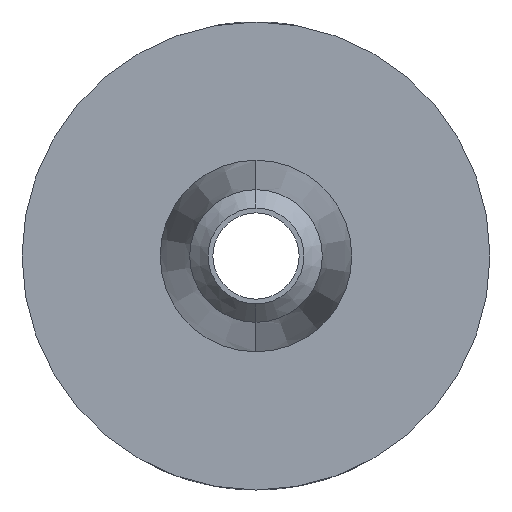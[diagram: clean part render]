
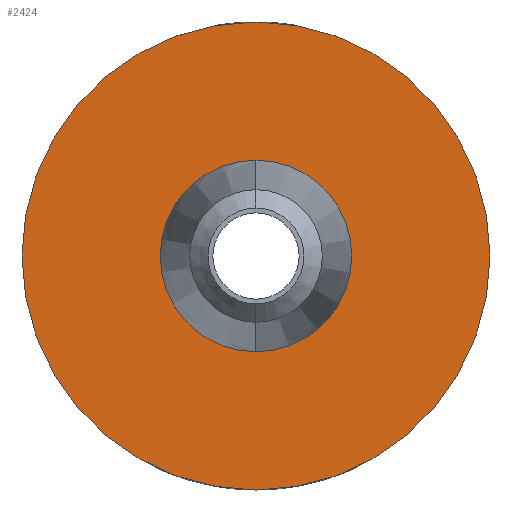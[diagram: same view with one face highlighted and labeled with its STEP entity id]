
A CAD part, left-side view. The second image highlights one B-rep face of the part: STEP entity #2424.
In plain terms, the highlighted planar face has unit normal (1, 0, 0).
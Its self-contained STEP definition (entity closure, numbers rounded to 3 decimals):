
#52=PLANE('',#2747);
#69=FACE_BOUND('',#286,.T.);
#125=CIRCLE('',#2748,3.175);
#126=CIRCLE('',#2749,1.3);
#193=FACE_OUTER_BOUND('',#285,.T.);
#285=EDGE_LOOP('',(#1981));
#286=EDGE_LOOP('',(#1982));
#1079=VERTEX_POINT('',#4719);
#1080=VERTEX_POINT('',#4721);
#1530=EDGE_CURVE('',#1079,#1079,#125,.T.);
#1531=EDGE_CURVE('',#1080,#1080,#126,.T.);
#1981=ORIENTED_EDGE('',*,*,#1530,.T.);
#1982=ORIENTED_EDGE('',*,*,#1531,.T.);
#2424=ADVANCED_FACE('',(#193,#69),#52,.T.);
#2747=AXIS2_PLACEMENT_3D('',#4718,#2986,#2987);
#2748=AXIS2_PLACEMENT_3D('',#4720,#2988,#2989);
#2749=AXIS2_PLACEMENT_3D('',#4722,#2990,#2991);
#2986=DIRECTION('center_axis',(1.,0.,0.));
#2987=DIRECTION('ref_axis',(0.,0.,-1.));
#2988=DIRECTION('center_axis',(1.,0.,0.));
#2989=DIRECTION('ref_axis',(0.,0.,-1.));
#2990=DIRECTION('center_axis',(-1.,0.,0.));
#2991=DIRECTION('ref_axis',(0.,0.,
-1.));
#4718=CARTESIAN_POINT('Origin',(-4.75,-3.213,0.));
#4719=CARTESIAN_POINT('',(-4.75,0.,3.175));
#4720=CARTESIAN_POINT('Origin',(-4.75,0.,0.));
#4721=CARTESIAN_POINT('',(-4.75,0.,1.3));
#4722=CARTESIAN_POINT('Origin',(-4.75,0.,0.));
